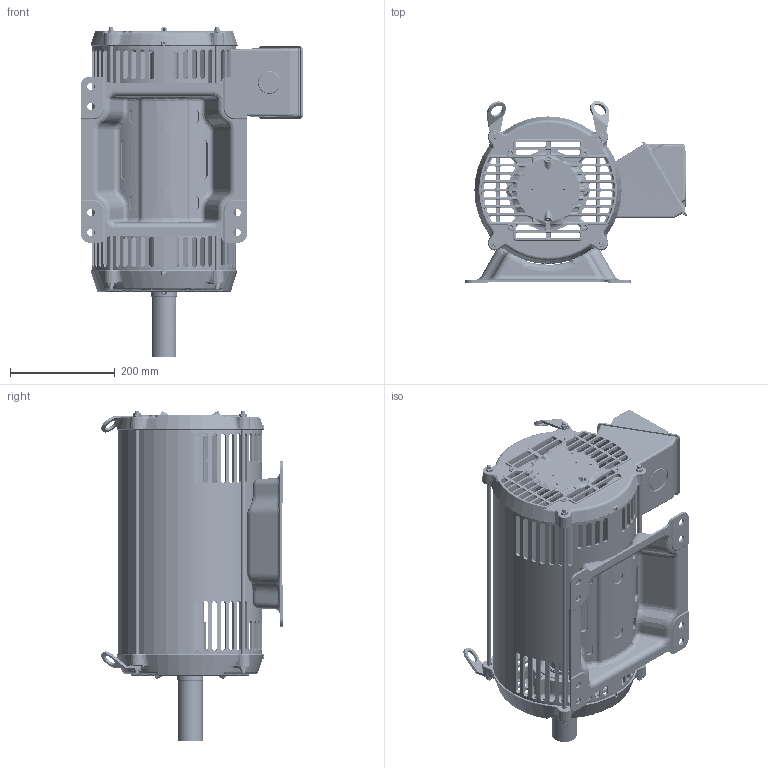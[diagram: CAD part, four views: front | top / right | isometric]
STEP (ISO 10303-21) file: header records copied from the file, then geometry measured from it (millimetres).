
FILE_DESCRIPTION((''),'2;1');
FILE_NAME('A280_ODP_ASM_4-6POLE_ASM','2021-09-13T15:21:18',('EMD2341'),('Nidec Motor Corporation'),'CREO PARAMETRIC BY PTC INC, 2020454','CREO PARAMETRIC BY PTC INC, 2020454','');
FILE_SCHEMA(('CONFIG_CONTROL_DESIGN'));
Length unit declared in the file: inch
Products named in the file (16): 2084116_AF1; 2035295-BKT_AF1; 2033996-005_AF4; 2028415_ASM; 2083266; 2096850-BKT_AF1; 2033996-006_AF1; 2096851_ASM; 0183520; 2084101; 0369733; 0364282; 0364292; 0929949-STU; 0041590; A280_ODP_ASM_4-6POLE_ASM
Assembly tree (26 placements, depth 3):
  A280_ODP_ASM_4-6POLE_ASM
    2084116_AF1
    2028415_ASM
      2035295-BKT_AF1
      2033996-005_AF4
    2083266
    2096851_ASM
      2096850-BKT_AF1
      2033996-006_AF1
    0183520
    2084101
    0369733  x2
    0364282
    0364292
    0929949-STU  x4
    0041590  x8
Bounding box: 424.57 x 347.64 x 631.55 mm (x, y, z)
Volume: 5039598.7 mm3; surface area: 1819202 mm2
Topology: 26 solids, 26 shells, 5377 faces, 13185 edges, 7831 vertices
Faces by surface type: bspline 1896, cylinder 1446, plane 1054, cone 486, torus 394, sphere 85, extrusion 16
Entity records: 257835 total; most frequent: CARTESIAN_POINT 147666, ORIENTED_EDGE 25696, DIRECTION 19112, EDGE_CURVE 12848, VERTEX_POINT 7643, AXIS2_PLACEMENT_3D 7477, EDGE_LOOP 5593, FACE_OUTER_BOUND 5237
